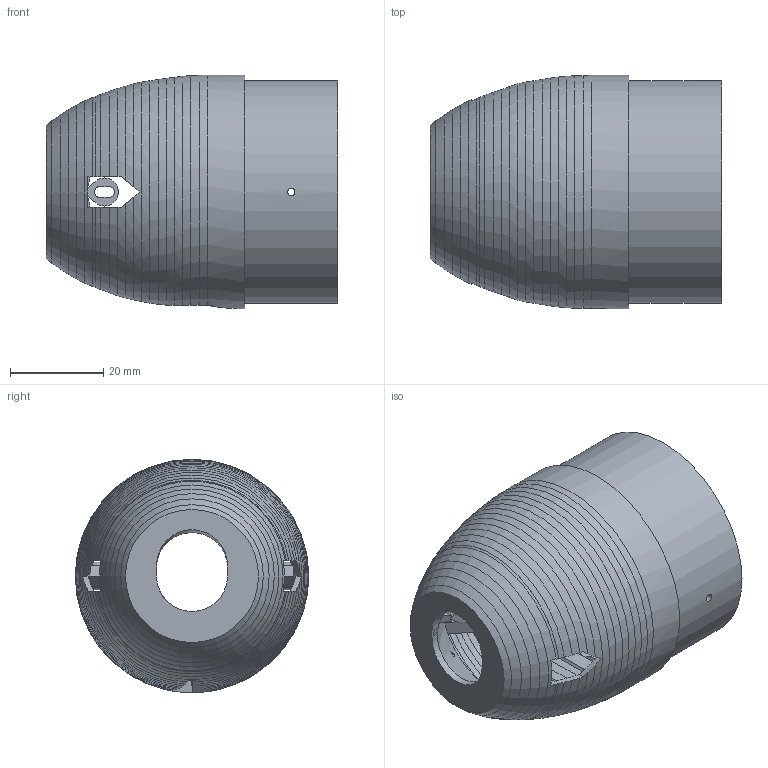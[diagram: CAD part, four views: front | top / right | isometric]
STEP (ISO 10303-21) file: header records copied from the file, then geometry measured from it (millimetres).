
FILE_DESCRIPTION(('SkyG Speed 120B - revision C7B-1 - 2026-10-09','N0M-nose-micro-camera'),'2;1');
FILE_NAME('N0M-nose-micro-camera_C7B-1','2026-10-09T15:13:00',('Author'),( 'Open CASCADE'),'Open CASCADE STEP processor 7.9','Open CASCADE 7.9' ,'Unknown');
FILE_SCHEMA(('AUTOMOTIVE_DESIGN { 1 0 10303 214 1 1 1 1 }'));
Length unit declared in the file: millimetre
Products named in the file (1): N0M-nose-micro-camera C7B-1
Bounding box: 62.5 x 50 x 50 mm (x, y, z)
Volume: 21321.7 mm3; surface area: 20703.3 mm2
Topology: 1 solids, 1 shells, 300 faces, 869 edges, 570 vertices
Faces by surface type: plane 153, cone 77, cylinder 37, bspline 33
Full cylindrical faces by diameter (mm): 1.6 x2, 47.7 x1, 50 x1
Entity records: 24558 total; most frequent: CARTESIAN_POINT 8737, DIRECTION 2620, ORIENTED_EDGE 1738, PCURVE 1738, DEFINITIONAL_REPRESENTATION 1738, LINE 1103, VECTOR 1103, EDGE_CURVE 869
